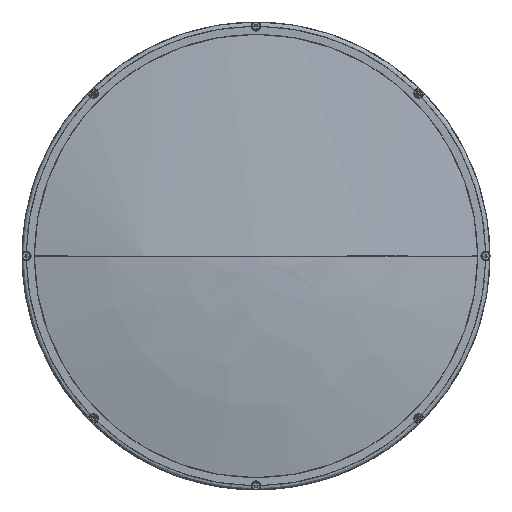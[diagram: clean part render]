
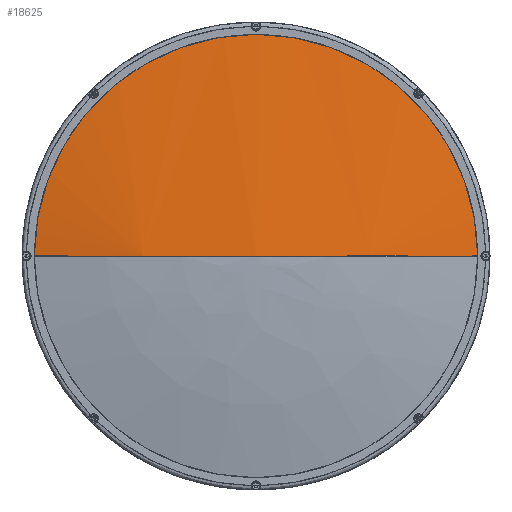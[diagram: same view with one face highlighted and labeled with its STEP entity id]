
A CAD part, left-side view. The second image highlights one B-rep face of the part: STEP entity #18625.
In plain terms, the highlighted face is a revolution surface.
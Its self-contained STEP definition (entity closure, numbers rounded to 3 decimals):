
#18625 = ADVANCED_FACE('',(#18626),#18644,.T.);
#18626 = FACE_BOUND('',#18627,.T.);
#18627 = EDGE_LOOP('',(#18628,#18658,#18677,#18696));
#18628 = ORIENTED_EDGE('',*,*,#18629,.F.);
#18629 = EDGE_CURVE('',#18630,#18632,#18634,.T.);
#18630 = VERTEX_POINT('',#18631);
#18631 = CARTESIAN_POINT('',(-719.032,0.,
    0.));
#18632 = VERTEX_POINT('',#18633);
#18633 = CARTESIAN_POINT('',(-703.698,-154.5,
    0.));
#18634 = SURFACE_CURVE('',#18635,(#18643),.PCURVE_S1.);
#18635 = ( BOUNDED_CURVE() B_SPLINE_CURVE(6,(#18636,#18637,#18638,#18639
    ,#18640,#18641,#18642),.UNSPECIFIED.,.F.,.F.) 
B_SPLINE_CURVE_WITH_KNOTS((7,7),(0.,1.),.PIECEWISE_BEZIER_KNOTS.) CURVE(
) GEOMETRIC_REPRESENTATION_ITEM() RATIONAL_B_SPLINE_CURVE((
    1.,1.,1.,1.,
1.,1.,1.)) REPRESENTATION_ITEM('') 
  );
#18636 = CARTESIAN_POINT('',(-719.032,0.,
    0.));
#18637 = CARTESIAN_POINT('',(-719.032,-25.927,
    0.));
#18638 = CARTESIAN_POINT('',(-718.006,-51.844,
    0.));
#18639 = CARTESIAN_POINT('',(-715.955,-77.706,
    0.));
#18640 = CARTESIAN_POINT('',(-712.882,-103.465,
    0.));
#18641 = CARTESIAN_POINT('',(-708.794,-129.079,
    0.));
#18642 = CARTESIAN_POINT('',(-703.698,-154.5,
    0.));
#18643 = PCURVE('',#18644,#18653);
#18644 = SURFACE_OF_REVOLUTION('',#18645,#18650);
#18645 = CIRCLE('',#18646,786.);
#18646 = AXIS2_PLACEMENT_3D('',#18647,#18648,#18649);
#18647 = CARTESIAN_POINT('',(66.968,0.,
    0.));
#18648 = DIRECTION('',(0.,0.,-1.));
#18649 = DIRECTION('',(1.,0.,0.));
#18650 = AXIS1_PLACEMENT('',#18651,#18652);
#18651 = CARTESIAN_POINT('',(66.968,0.,0.));
#18652 = DIRECTION('',(1.,0.,0.));
#18653 = DEFINITIONAL_REPRESENTATION('',(#18654),#18657);
#18654 = B_SPLINE_CURVE_WITH_KNOTS('',1,(#18655,#18656),.UNSPECIFIED.,
  .F.,.F.,(2,2),(0.,1.),.PIECEWISE_BEZIER_KNOTS.);
#18655 = CARTESIAN_POINT('',(6.283,3.142));
#18656 = CARTESIAN_POINT('',(6.283,2.944));
#18657 = ( GEOMETRIC_REPRESENTATION_CONTEXT(2) 
PARAMETRIC_REPRESENTATION_CONTEXT() REPRESENTATION_CONTEXT('',''
  ) );
#18658 = ORIENTED_EDGE('',*,*,#18659,.F.);
#18659 = EDGE_CURVE('',#18660,#18630,#18662,.T.);
#18660 = VERTEX_POINT('',#18661);
#18661 = CARTESIAN_POINT('',(-719.032,0.,
    0.));
#18662 = SURFACE_CURVE('',#18663,(#18671),.PCURVE_S1.);
#18663 = ( BOUNDED_CURVE() B_SPLINE_CURVE(6,(#18664,#18665,#18666,#18667
    ,#18668,#18669,#18670),.UNSPECIFIED.,.F.,.F.) 
B_SPLINE_CURVE_WITH_KNOTS((7,7),(0.,1.),.PIECEWISE_BEZIER_KNOTS.) CURVE(
) GEOMETRIC_REPRESENTATION_ITEM() RATIONAL_B_SPLINE_CURVE((
    1.133,1.036,0.992,0.976,
0.992,1.036,1.133)) REPRESENTATION_ITEM('') 
  );
#18664 = CARTESIAN_POINT('',(-719.032,0.,
    0.));
#18665 = CARTESIAN_POINT('',(-719.032,0.,
    0.));
#18666 = CARTESIAN_POINT('',(-719.032,0.,0.)
  );
#18667 = CARTESIAN_POINT('',(-719.032,0.,
    0.));
#18668 = CARTESIAN_POINT('',(-719.032,0.,
    0.));
#18669 = CARTESIAN_POINT('',(-719.032,0.,
    0.));
#18670 = CARTESIAN_POINT('',(-719.032,0.,
    0.));
#18671 = PCURVE('',#18644,#18672);
#18672 = DEFINITIONAL_REPRESENTATION('',(#18673),#18676);
#18673 = B_SPLINE_CURVE_WITH_KNOTS('',1,(#18674,#18675),.UNSPECIFIED.,
  .F.,.F.,(2,2),(0.,1.),.PIECEWISE_BEZIER_KNOTS.);
#18674 = CARTESIAN_POINT('',(3.142,3.142));
#18675 = CARTESIAN_POINT('',(6.283,3.142));
#18676 = ( GEOMETRIC_REPRESENTATION_CONTEXT(2) 
PARAMETRIC_REPRESENTATION_CONTEXT() REPRESENTATION_CONTEXT('',''
  ) );
#18677 = ORIENTED_EDGE('',*,*,#18678,.F.);
#18678 = EDGE_CURVE('',#18679,#18660,#18681,.T.);
#18679 = VERTEX_POINT('',#18680);
#18680 = CARTESIAN_POINT('',(-703.698,154.5,
    0.));
#18681 = SURFACE_CURVE('',#18682,(#18690),.PCURVE_S1.);
#18682 = ( BOUNDED_CURVE() B_SPLINE_CURVE(6,(#18683,#18684,#18685,#18686
    ,#18687,#18688,#18689),.UNSPECIFIED.,.F.,.F.) 
B_SPLINE_CURVE_WITH_KNOTS((7,7),(0.,1.),.PIECEWISE_BEZIER_KNOTS.) CURVE(
) GEOMETRIC_REPRESENTATION_ITEM() RATIONAL_B_SPLINE_CURVE((
    1.,1.,1.,1.,
1.,1.,1.)) REPRESENTATION_ITEM('') 
  );
#18683 = CARTESIAN_POINT('',(-703.698,154.5,
    0.));
#18684 = CARTESIAN_POINT('',(-708.794,129.079,
    0.));
#18685 = CARTESIAN_POINT('',(-712.882,103.465,
    0.));
#18686 = CARTESIAN_POINT('',(-715.955,77.706,
    0.));
#18687 = CARTESIAN_POINT('',(-718.006,51.844,
    0.));
#18688 = CARTESIAN_POINT('',(-719.032,25.927,
    0.));
#18689 = CARTESIAN_POINT('',(-719.032,0.,
    0.));
#18690 = PCURVE('',#18644,#18691);
#18691 = DEFINITIONAL_REPRESENTATION('',(#18692),#18695);
#18692 = B_SPLINE_CURVE_WITH_KNOTS('',1,(#18693,#18694),.UNSPECIFIED.,
  .F.,.F.,(2,2),(0.,1.),.PIECEWISE_BEZIER_KNOTS.);
#18693 = CARTESIAN_POINT('',(3.142,2.944));
#18694 = CARTESIAN_POINT('',(3.142,3.142));
#18695 = ( GEOMETRIC_REPRESENTATION_CONTEXT(2) 
PARAMETRIC_REPRESENTATION_CONTEXT() REPRESENTATION_CONTEXT('',''
  ) );
#18696 = ORIENTED_EDGE('',*,*,#18697,.F.);
#18697 = EDGE_CURVE('',#18632,#18679,#18698,.T.);
#18698 = SURFACE_CURVE('',#18699,(#18711),.PCURVE_S1.);
#18699 = B_SPLINE_CURVE_WITH_KNOTS('',10,(#18700,#18701,#18702,#18703,
    #18704,#18705,#18706,#18707,#18708,#18709,#18710),.UNSPECIFIED.,.F.,
  .F.,(11,11),(0.,1.),.PIECEWISE_BEZIER_KNOTS.);
#18700 = CARTESIAN_POINT('',(-703.698,-154.5,
    0.));
#18701 = CARTESIAN_POINT('',(-703.698,-154.5,
    48.538));
#18702 = CARTESIAN_POINT('',(-703.698,-137.557,
    97.075));
#18703 = CARTESIAN_POINT('',(-703.698,-103.671,
    138.959));
#18704 = CARTESIAN_POINT('',(-703.698,-55.83,
    167.537));
#18705 = CARTESIAN_POINT('',(-703.698,0.,
    177.718));
#18706 = CARTESIAN_POINT('',(-703.698,55.83,
    167.537));
#18707 = CARTESIAN_POINT('',(-703.698,103.671,
    138.959));
#18708 = CARTESIAN_POINT('',(-703.698,137.557,
    97.075));
#18709 = CARTESIAN_POINT('',(-703.698,154.5,
    48.538));
#18710 = CARTESIAN_POINT('',(-703.698,154.5,
    0.));
#18711 = PCURVE('',#18644,#18712);
#18712 = DEFINITIONAL_REPRESENTATION('',(#18713),#18716);
#18713 = B_SPLINE_CURVE_WITH_KNOTS('',1,(#18714,#18715),.UNSPECIFIED.,
  .F.,.F.,(2,2),(0.,1.),.PIECEWISE_BEZIER_KNOTS.);
#18714 = CARTESIAN_POINT('',(6.283,2.944));
#18715 = CARTESIAN_POINT('',(3.142,2.944));
#18716 = ( GEOMETRIC_REPRESENTATION_CONTEXT(2) 
PARAMETRIC_REPRESENTATION_CONTEXT() REPRESENTATION_CONTEXT('',''
  ) );
